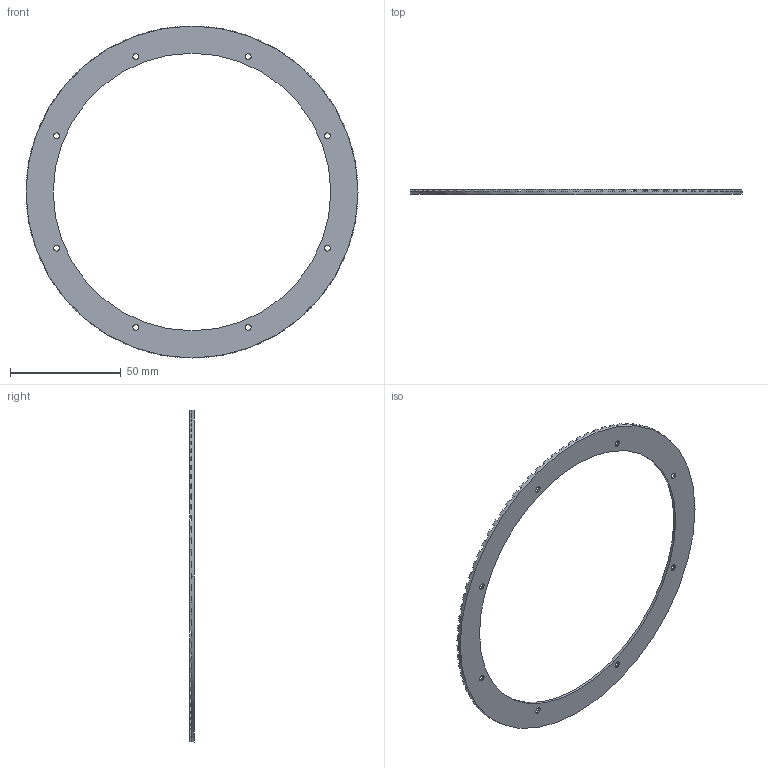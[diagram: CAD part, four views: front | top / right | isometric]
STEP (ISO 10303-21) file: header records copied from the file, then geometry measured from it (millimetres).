
FILE_DESCRIPTION((''),'2;1');
FILE_NAME('SAR150','2024-11-21T',('Cujo'),(''),'PRO/ENGINEER BY PARAMETRIC TECHNOLOGY CORPORATION, 2017170','PRO/ENGINEER BY PARAMETRIC TECHNOLOGY CORPORATION, 2017170','');
FILE_SCHEMA(('CONFIG_CONTROL_DESIGN'));
Length unit declared in the file: millimetre
Products named in the file (1): SAR150
Bounding box: 149.6 x 2.1 x 149.6 mm (x, y, z)
Volume: 7894.4 mm3; surface area: 13511.4 mm2
Topology: 1 solids, 1 shells, 430 faces, 1244 edges, 824 vertices
Faces by surface type: plane 274, cylinder 140, cone 16
Entity records: 18121 total; most frequent: DIRECTION 2576, CARTESIAN_POINT 2498, ORIENTED_EDGE 2488, PRESENTATION_STYLE_ASSIGNMENT 1245, STYLED_ITEM 1245, CURVE_STYLE 1244, EDGE_CURVE 1244, AXIS2_PLACEMENT_3D 902
